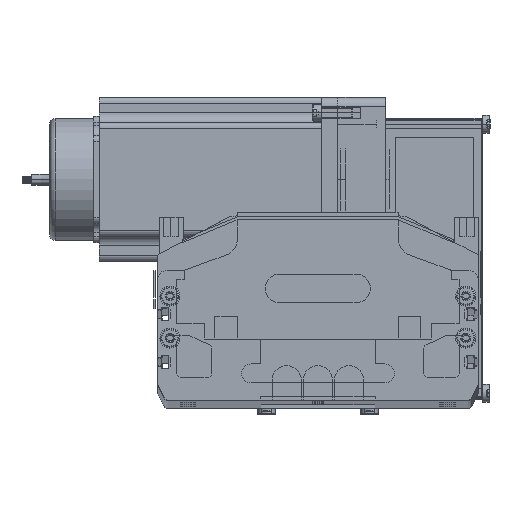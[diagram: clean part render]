
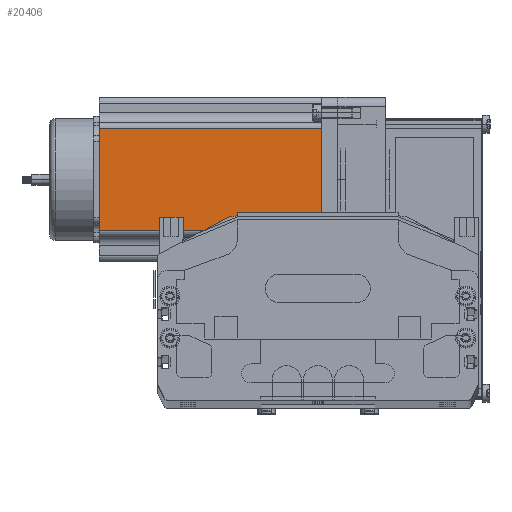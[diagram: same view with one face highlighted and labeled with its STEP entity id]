
A CAD part, top view. The second image highlights one B-rep face of the part: STEP entity #20406.
In plain terms, the highlighted planar face has unit normal (0, 0, 1) as drawn and (0, -1, 0) by its records, which use the part's own axes.
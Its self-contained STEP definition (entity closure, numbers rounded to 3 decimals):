
#20322 = EDGE_CURVE ( 'NONE', #20412, #20462, #43906, .T. ) ;
#20323 = ORIENTED_EDGE ( 'NONE', *, *, #20322, .F. ) ;
#20324 = EDGE_CURVE ( 'NONE', #20412, #20463, #44003, .T. ) ;
#20401 = VERTEX_POINT ( 'NONE', #44329 ) ;
#20403 = ORIENTED_EDGE ( 'NONE', *, *, #20324, .T. ) ;
#20406 = ADVANCED_FACE ( 'NONE', ( #44113 ), #44112, .F. ) ;
#20408 = ORIENTED_EDGE ( 'NONE', *, *, #20435, .T. ) ;
#20412 = VERTEX_POINT ( 'NONE', #44310 ) ;
#20435 = EDGE_CURVE ( 'NONE', #20463, #20401, #44243, .T. ) ;
#20460 = EDGE_LOOP ( 'NONE', ( #20408, #20478, #20323, #20403 ) ) ;
#20462 = VERTEX_POINT ( 'NONE', #44367 ) ;
#20463 = VERTEX_POINT ( 'NONE', #44251 ) ;
#20473 = EDGE_CURVE ( 'NONE', #20401, #20462, #44361, .T. ) ;
#20478 = ORIENTED_EDGE ( 'NONE', *, *, #20473, .T. ) ;
#43898 = DIRECTION ( 'NONE',  ( 0., 0., -1. ) ) ;
#43899 = VECTOR ( 'NONE', #43898, 1000. ) ;
#43900 = CARTESIAN_POINT ( 'NONE',  ( 16.16, 0., 116.5 ) ) ;
#43903 = DIRECTION ( 'NONE',  ( 1., 0., 0. ) ) ;
#43904 = VECTOR ( 'NONE', #43903, 1000. ) ;
#43905 = CARTESIAN_POINT ( 'NONE',  ( 0., 0., 116.5 ) ) ;
#43906 = LINE ( 'NONE', #43905, #43904 ) ;
#44003 = LINE ( 'NONE', #43900, #43899 ) ;
#44103 = CARTESIAN_POINT ( 'NONE',  ( 0., 0., 116.5 ) ) ;
#44112 = PLANE ( 'NONE',  #44320 ) ;
#44113 = FACE_OUTER_BOUND ( 'NONE', #20460, .T. ) ;
#44238 = DIRECTION ( 'NONE',  ( 1., 0., 0. ) ) ;
#44239 = VECTOR ( 'NONE', #44238, 1000. ) ;
#44242 = CARTESIAN_POINT ( 'NONE',  ( 0., 0., 0. ) ) ;
#44243 = LINE ( 'NONE', #44242, #44239 ) ;
#44251 = CARTESIAN_POINT ( 'NONE',  ( 16.16, 0., 0. ) ) ;
#44310 = CARTESIAN_POINT ( 'NONE',  ( 16.16, 0., 116.5 ) ) ;
#44314 = DIRECTION ( 'NONE',  ( 0., 0., 1. ) ) ;
#44315 = DIRECTION ( 'NONE',  ( 0., 1., 0. ) ) ;
#44320 = AXIS2_PLACEMENT_3D ( 'NONE', #44103, #44315, #44314 ) ;
#44329 = CARTESIAN_POINT ( 'NONE',  ( 69.74, 0., 0. ) ) ;
#44346 = DIRECTION ( 'NONE',  ( 0., 0., 1. ) ) ;
#44347 = VECTOR ( 'NONE', #44346, 1000. ) ;
#44348 = CARTESIAN_POINT ( 'NONE',  ( 69.74, 0., 116.5 ) ) ;
#44361 = LINE ( 'NONE', #44348, #44347 ) ;
#44367 = CARTESIAN_POINT ( 'NONE',  ( 69.74, 0., 116.5 ) ) ;
